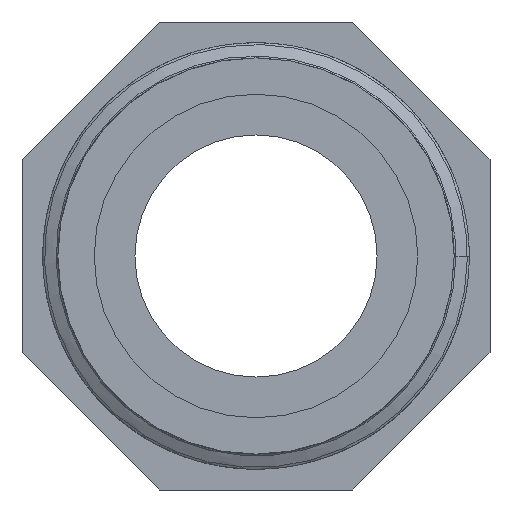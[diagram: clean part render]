
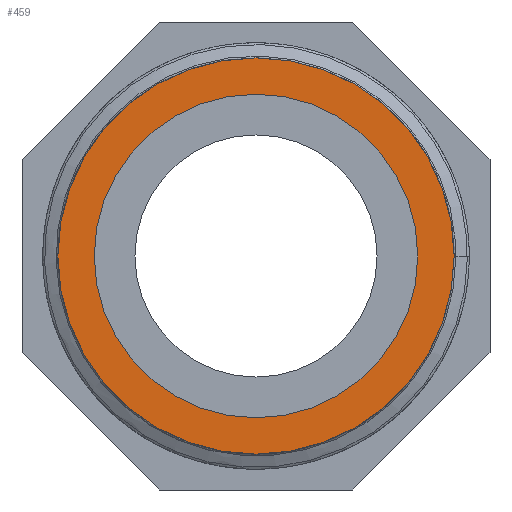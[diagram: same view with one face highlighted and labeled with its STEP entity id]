
A CAD part, front view. The second image highlights one B-rep face of the part: STEP entity #459.
In plain terms, the highlighted planar face has unit normal (0, -1, 0).
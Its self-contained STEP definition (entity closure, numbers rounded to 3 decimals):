
#21=FACE_BOUND('',#100,.T.);
#29=PLANE('',#490);
#49=CIRCLE('',#487,15.9);
#50=CIRCLE('',#489,19.476);
#68=FACE_OUTER_BOUND('',#99,.T.);
#99=EDGE_LOOP('',(#367));
#100=EDGE_LOOP('',(#368));
#208=VERTEX_POINT('',#2955);
#224=VERTEX_POINT('',#7559);
#278=EDGE_CURVE('',#224,#224,#49,.T.);
#279=EDGE_CURVE('',#208,#208,#50,.T.);
#367=ORIENTED_EDGE('',*,*,#279,.T.);
#368=ORIENTED_EDGE('',*,*,#278,.T.);
#459=ADVANCED_FACE('',(#68,#21),#29,.F.);
#487=AXIS2_PLACEMENT_3D('',#7560,#538,#539);
#489=AXIS2_PLACEMENT_3D('',#7562,#542,#543);
#490=AXIS2_PLACEMENT_3D('',#7563,#544,#545);
#538=DIRECTION('center_axis',(0.,1.,0.));
#539=DIRECTION('ref_axis',(-1.,0.,0.));
#542=DIRECTION('center_axis',(0.,-1.,0.));
#543=DIRECTION('ref_axis',(-1.,0.,0.));
#544=DIRECTION('center_axis',(0.,1.,0.));
#545=DIRECTION('ref_axis',(0.,0.,1.));
#2955=CARTESIAN_POINT('',(19.476,-28.,0.));
#7559=CARTESIAN_POINT('',(15.9,-28.,0.));
#7560=CARTESIAN_POINT('Origin',(0.,-28.,0.));
#7562=CARTESIAN_POINT('Origin',(0.,-28.,0.));
#7563=CARTESIAN_POINT('Origin',(0.,-28.,0.));
